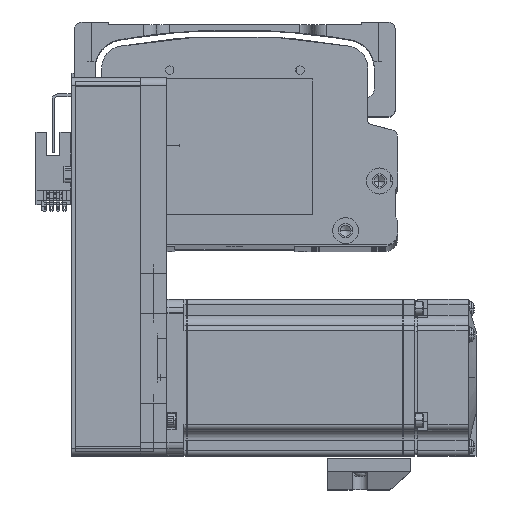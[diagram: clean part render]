
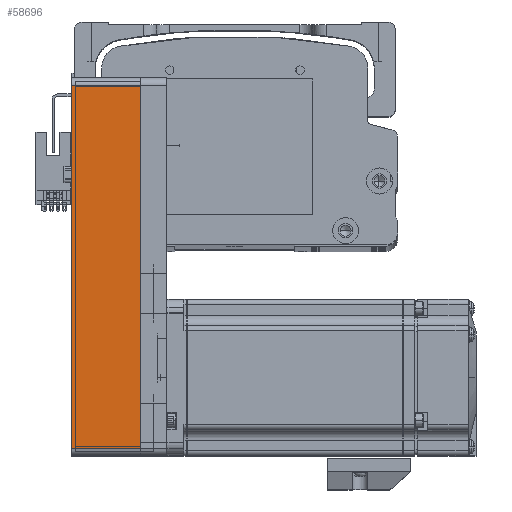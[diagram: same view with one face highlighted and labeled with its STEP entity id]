
A CAD part, top view. The second image highlights one B-rep face of the part: STEP entity #58696.
In plain terms, the highlighted planar face has unit normal (0, 0, 1) as drawn and (0, 1, 0) by its records, which use the part's own axes.
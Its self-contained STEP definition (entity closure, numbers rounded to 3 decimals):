
#4470 = LINE ( 'NONE', #7991, #21888 ) ;
#5990 = CARTESIAN_POINT ( 'NONE',  ( 72.5, 30., 0. ) ) ;
#6081 = LINE ( 'NONE', #11956, #73980 ) ;
#7391 = CARTESIAN_POINT ( 'NONE',  ( -69.5, 30., 0. ) ) ;
#7991 = CARTESIAN_POINT ( 'NONE',  ( 72.5, 30., 26.5 ) ) ;
#11323 = FACE_OUTER_BOUND ( 'NONE', #67685, .T. ) ;
#11956 = CARTESIAN_POINT ( 'NONE',  ( -69.5, 30., 26.5 ) ) ;
#11995 = AXIS2_PLACEMENT_3D ( 'NONE', #65487, #26104, #72145 ) ;
#18511 = DIRECTION ( 'NONE',  ( 0., 0., 1. ) ) ;
#21888 = VECTOR ( 'NONE', #47345, 1000. ) ;
#23902 = ORIENTED_EDGE ( 'NONE', *, *, #72799, .F. ) ;
#25719 = CARTESIAN_POINT ( 'NONE',  ( -69.5, 30., 26.5 ) ) ;
#26104 = DIRECTION ( 'NONE',  ( 0., -1., 0. ) ) ;
#26330 = VERTEX_POINT ( 'NONE', #7391 ) ;
#26596 = CARTESIAN_POINT ( 'NONE',  ( 69.5, 30., 26.5 ) ) ;
#27898 = ORIENTED_EDGE ( 'NONE', *, *, #54360, .T. ) ;
#31479 = CARTESIAN_POINT ( 'NONE',  ( 69.5, 30., 26.5 ) ) ;
#31881 = CARTESIAN_POINT ( 'NONE',  ( 69.5, 30., 0. ) ) ;
#34101 = VERTEX_POINT ( 'NONE', #25719 ) ;
#39316 = ORIENTED_EDGE ( 'NONE', *, *, #83025, .T. ) ;
#42794 = VERTEX_POINT ( 'NONE', #31881 ) ;
#45816 = EDGE_CURVE ( 'NONE', #26330, #34101, #6081, .T. ) ;
#47345 = DIRECTION ( 'NONE',  ( -1., 0., 0. ) ) ;
#47392 = LINE ( 'NONE', #5990, #80329 ) ;
#47613 = VERTEX_POINT ( 'NONE', #26596 ) ;
#49194 = VECTOR ( 'NONE', #70873, 1000. ) ;
#51942 = DIRECTION ( 'NONE',  ( -1., 0., 0. ) ) ;
#54360 = EDGE_CURVE ( 'NONE', #42794, #26330, #47392, .T. ) ;
#58696 = ADVANCED_FACE ( 'NONE', ( #11323 ), #71884, .F. ) ;
#58852 = ORIENTED_EDGE ( 'NONE', *, *, #45816, .T. ) ;
#65487 = CARTESIAN_POINT ( 'NONE',  ( 72.5, 30., 26.5 ) ) ;
#67685 = EDGE_LOOP ( 'NONE', ( #27898, #58852, #23902, #39316 ) ) ;
#70873 = DIRECTION ( 'NONE',  ( 0., 0., -1. ) ) ;
#71884 = PLANE ( 'NONE',  #11995 ) ;
#72145 = DIRECTION ( 'NONE',  ( 1., 0., 0. ) ) ;
#72799 = EDGE_CURVE ( 'NONE', #47613, #34101, #4470, .T. ) ;
#73980 = VECTOR ( 'NONE', #18511, 1000. ) ;
#80329 = VECTOR ( 'NONE', #51942, 1000. ) ;
#83025 = EDGE_CURVE ( 'NONE', #47613, #42794, #84206, .T. ) ;
#84206 = LINE ( 'NONE', #31479, #49194 ) ;
